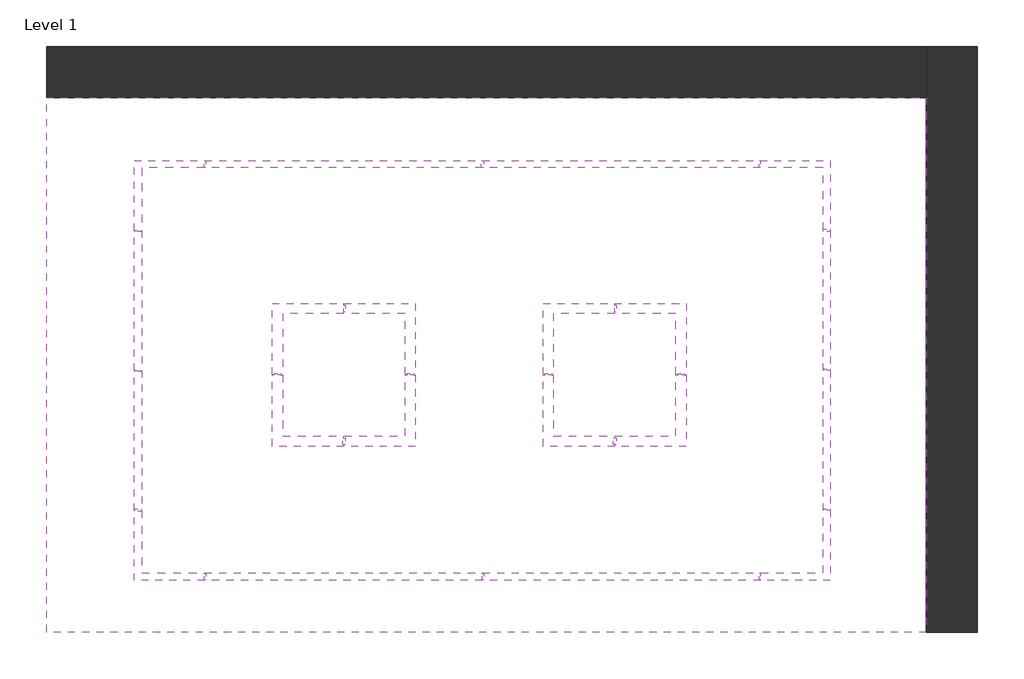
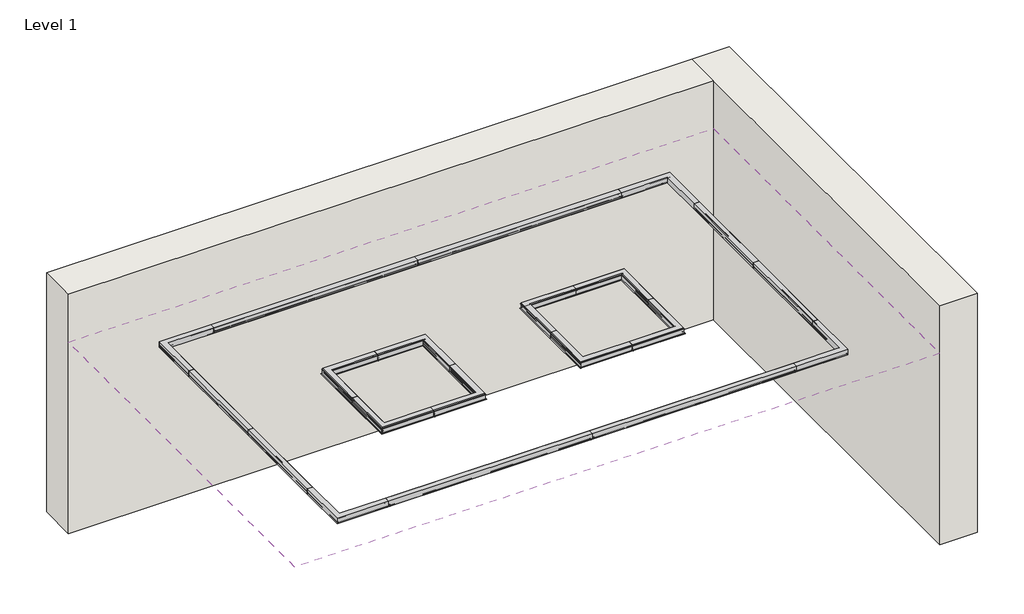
# One storey: 20 light fixtures, 2 walls, 1 covering.
"""IFC4 building model written with IfcOpenShell, lengths in millimetres."""

from ifc_helpers import new_model, si_unit, origin, origin_with_axes, place, context, project, spatial, polyline, outline, extrude, faceted_brep, transform, mapped, element, save
from components import lighting_recessed_axis_extend_2_6ccd1246, lighting_recessed_axis_extend_2_076d793f, lighting_recessed_axis_extend_2_a5cec84b, lighting_recessed_axis_extend_2_f581278c, lighting_recessed_axis_extend_2_38db9704, lighting_recessed_axis_extend_2_corner_2x2_75cb55ce, lighting_recessed_axis_extend_2_corner_2x2_af192418, lighting_recessed_axis_extend_2_corner_2x2_d16d7cd6, lighting_recessed_axis_extend_2_corner_2x2_85d7920b

model = new_model("IFC4")

# Units and contexts
model_context = context("Model", 3, world=origin())
ifc_project = project(units=[si_unit("LENGTHUNIT", "METRE", prefix="MILLI")], contexts=[model_context])

# Site, building, storey
site = spatial("IfcSite", under=ifc_project)
building = spatial("IfcBuilding", under=site)
storey = spatial("IfcBuildingStorey", under=building, Name="Level 1", Elevation=0.0)

# Covering
placement = place(None, origin())
element("IfcCovering", 1, ObjectType="2' x 4' ACT System", at=placement, inside=storey, context=model_context, shape_type="Brep", body=[
    faceted_brep([(-4065.1843493, 6283.1270347, 2495.55), (-4065.1843493, 1558.7270347, 2495.55), (3707.2156507, 1558.7270347, 2495.55), (3707.2156507, 6283.1270347, 2495.55), (-3289.3641043, 2017.3492806, 2495.55), (-3289.3641043, 5729.8894806, 2495.55), (2861.5760957, 5729.8894806, 2495.55), (2861.5760957, 2017.3492806, 2495.55), (-4065.1843493, 1558.7270347, 2438.4), (-4065.1843493, 6283.1270347, 2438.4), (3707.2156507, 6283.1270347, 2438.4), (3707.2156507, 1558.7270347, 2438.4), (2861.5760957, 5729.8894806, 2438.4), (-3289.3641043, 5729.8894806, 2438.4), (-3289.3641043, 2017.3492806, 2438.4), (2861.5760957, 2017.3492806, 2438.4)], [[[0, 1, 2, 3], [4, 5, 6, 7]], [[8, 9, 10, 11], [12, 13, 14, 15]], [[1, 0, 9, 8]], [[2, 1, 8, 11]], [[3, 2, 11, 10]], [[0, 3, 10, 9]], [[4, 14, 13, 5]], [[14, 4, 7, 15]], [[15, 7, 6, 12]], [[12, 6, 5, 13]]]),
    faceted_brep([(2797.5680957, 5665.8814806, 2495.55), (-3225.3561043, 5665.8814806, 2495.55), (-3225.3561043, 2081.3572806, 2495.55), (2797.5680957, 2081.3572806, 2495.55), (-2056.5751043, 3215.0356347, 2495.55), (-2056.5751043, 4452.5490347, 2495.55), (-819.0617043, 4452.5308051, 2495.55), (-819.0617043, 3215.0356347, 2495.55), (1573.8468957, 4452.5308051, 2495.55), (1573.8468957, 3215.0356347, 2495.55), (336.3334957, 3215.0356347, 2495.55), (336.3334957, 4452.5490347, 2495.55), (-3225.3561043, 2081.3572806, 2438.4), (-3225.3561043, 5665.8814806, 2438.4), (2797.5680957, 5665.8814806, 2438.4), (2797.5680957, 2081.3572806, 2438.4), (-2056.5751043, 4452.5490347, 2438.4), (-2056.5751043, 3215.0356347, 2438.4), (-819.0617043, 3215.0356347, 2438.4), (-819.0617043, 4452.5308051, 2438.4), (1573.8468957, 3215.0356347, 2438.4), (1573.8468957, 4452.5308051, 2438.4), (336.3334957, 4452.5490347, 2438.4), (336.3334957, 3215.0356347, 2438.4)], [[[0, 1, 2, 3], [4, 5, 6, 7], [8, 9, 10, 11]], [[12, 13, 14, 15], [16, 17, 18, 19], [20, 21, 22, 23]], [[18, 7, 6, 19]], [[12, 2, 1, 13]], [[2, 12, 15, 3]], [[7, 18, 17, 4]], [[19, 6, 5, 16]], [[4, 17, 16, 5]], [[3, 15, 14, 0]], [[0, 14, 13, 1]], [[9, 20, 23, 10]], [[20, 9, 8, 21]], [[21, 8, 11, 22]], [[10, 23, 22, 11]]]),
    faceted_brep([(-1992.5671043, 4388.5410347, 2495.55), (-1992.5671043, 3279.0436347, 2495.55), (-883.0697043, 3279.0436347, 2495.55), (-883.0697043, 4388.5228051, 2495.55), (-1992.5671043, 3279.0436347, 2438.4), (-1992.5671043, 4388.5410347, 2438.4), (-883.0697043, 4388.5228051, 2438.4), (-883.0697043, 3279.0436347, 2438.4)], [[[0, 1, 2, 3]], [[4, 5, 6, 7]], [[2, 7, 6, 3]], [[7, 2, 1, 4]], [[3, 6, 5, 0]], [[4, 1, 0, 5]]]),
    faceted_brep([(1509.8388957, 3279.0436347, 2495.55), (1509.8388957, 4388.5228051, 2495.55), (400.3414957, 4388.5410347, 2495.55), (400.3414957, 3279.0436347, 2495.55), (1509.8388957, 4388.5228051, 2438.4), (1509.8388957, 3279.0436347, 2438.4), (400.3414957, 3279.0436347, 2438.4), (400.3414957, 4388.5410347, 2438.4)], [[[0, 1, 2, 3]], [[4, 5, 6, 7]], [[5, 0, 3, 6]], [[0, 5, 4, 1]], [[1, 4, 7, 2]], [[6, 3, 2, 7]]]),
])

# Light fixtures
lighting_recessed_axis_extend_2_shape = lighting_recessed_axis_extend_2_6ccd1246(model_context)
element("IfcLightFixture", 2, ObjectType="Lighting-Recessed-Axis-Extend_2 : EX2R-900-80-35-SO-4", at=placement, inside=storey, context=model_context, shape_type="MappedRepresentation", body=[
    mapped(lighting_recessed_axis_extend_2_shape, transform((-3257.3601043, 4492.3760806, 2438.4), x_axis=(0.0, -1.0, 0.0), y_axis=(-1.0, 0.0, 0.0), z_axis=(0.0, 0.0, -1.0))),
])
element("IfcLightFixture", 3, ObjectType="Lighting-Recessed-Axis-Extend_2 : EX2R-900-80-35-SO-4", at=placement, inside=storey, context=model_context, shape_type="MappedRepresentation", body=[
    mapped(lighting_recessed_axis_extend_2_shape, transform((-3257.3601043, 3254.8626806, 2438.4), x_axis=(0.0, -1.0, 0.0), y_axis=(-1.0, 0.0, 0.0), z_axis=(0.0, 0.0, -1.0))),
])
lighting_recessed_axis_extend_2_2_shape = lighting_recessed_axis_extend_2_076d793f(model_context)
element("IfcLightFixture", 4, ObjectType="Lighting-Recessed-Axis-Extend_2 : EX2R-900-80-35-SO-4", at=placement, inside=storey, context=model_context, shape_type="MappedRepresentation", body=[
    mapped(lighting_recessed_axis_extend_2_2_shape, transform((1014.4626957, 5697.8854806, 2438.4), x_axis=(1.0, 0.0, 0.0), y_axis=(0.0, -1.0, 0.0), z_axis=(0.0, 0.0, -1.0))),
])
lighting_recessed_axis_extend_2_3_shape = lighting_recessed_axis_extend_2_a5cec84b(model_context)
element("IfcLightFixture", 5, ObjectType="Lighting-Recessed-Axis-Extend_2 : EX2R-900-80-35-SO-4", at=placement, inside=storey, context=model_context, shape_type="MappedRepresentation", body=[
    mapped(lighting_recessed_axis_extend_2_3_shape, transform((2829.5720957, 4492.3760806, 2438.4), x_axis=(0.0, -1.0, 0.0), y_axis=(-1.0, 0.0, 0.0), z_axis=(0.0, 0.0, -1.0))),
])
element("IfcLightFixture", 6, ObjectType="Lighting-Recessed-Axis-Extend_2 : EX2R-900-80-35-SO-4", at=placement, inside=storey, context=model_context, shape_type="MappedRepresentation", body=[
    mapped(lighting_recessed_axis_extend_2_3_shape, transform((2829.5720957, 3254.8626806, 2438.4), x_axis=(0.0, -1.0, 0.0), y_axis=(-1.0, 0.0, 0.0), z_axis=(0.0, 0.0, -1.0))),
])
lighting_recessed_axis_extend_2_4_shape = lighting_recessed_axis_extend_2_f581278c(model_context)
element("IfcLightFixture", 7, ObjectType="Lighting-Recessed-Axis-Extend_2 : EX2R-900-80-35-SO-4", at=placement, inside=storey, context=model_context, shape_type="MappedRepresentation", body=[
    mapped(lighting_recessed_axis_extend_2_4_shape, transform((-1442.2507043, 2049.3532806, 2438.4), x_axis=(1.0, 0.0, 0.0), y_axis=(0.0, -1.0, 0.0), z_axis=(0.0, 0.0, -1.0))),
])
element("IfcLightFixture", 8, ObjectType="Lighting-Recessed-Axis-Extend_2 : EX2R-900-80-35-SO-4", at=placement, inside=storey, context=model_context, shape_type="MappedRepresentation", body=[
    mapped(lighting_recessed_axis_extend_2_4_shape, transform((-1442.2507043, 5697.8854806, 2438.4), x_axis=(1.0, 0.0, 0.0), y_axis=(0.0, -1.0, 0.0), z_axis=(0.0, 0.0, -1.0))),
])
lighting_recessed_axis_extend_2_5_shape = lighting_recessed_axis_extend_2_38db9704(model_context)
element("IfcLightFixture", 9, ObjectType="Lighting-Recessed-Axis-Extend_2 : EX2R-900-80-35-SO-4", at=placement, inside=storey, context=model_context, shape_type="MappedRepresentation", body=[
    mapped(lighting_recessed_axis_extend_2_5_shape, transform((1014.4626957, 2049.3532806, 2438.4), x_axis=(1.0, 0.0, 0.0), y_axis=(0.0, -1.0, 0.0), z_axis=(0.0, 0.0, -1.0))),
])
lighting_recessed_axis_extend_2_corner_2x2_shape = lighting_recessed_axis_extend_2_corner_2x2_75cb55ce(model_context)
element("IfcLightFixture", 10, ObjectType="Lighting-Recessed-Axis-Extend_2_Corner : 2x2", at=placement, inside=storey, context=model_context, shape_type="MappedRepresentation", body=[
    mapped(lighting_recessed_axis_extend_2_corner_2x2_shape, transform((-1123.8617043, 3247.0396347, 2438.4), x_axis=(1.0, 0.0, 0.0), y_axis=(0.0, -1.0, 0.0), z_axis=(0.0, 0.0, -1.0))),
])
element("IfcLightFixture", 11, ObjectType="Lighting-Recessed-Axis-Extend_2_Corner : 2x2", at=placement, inside=storey, context=model_context, shape_type="MappedRepresentation", body=[
    mapped(lighting_recessed_axis_extend_2_corner_2x2_shape, transform((-2024.5711043, 3519.8356347, 2438.4), x_axis=(0.0, -1.0, 0.0), y_axis=(-1.0, 0.0, 0.0), z_axis=(0.0, 0.0, -1.0))),
])
element("IfcLightFixture", 12, ObjectType="Lighting-Recessed-Axis-Extend_2_Corner : 2x2", at=placement, inside=storey, context=model_context, shape_type="MappedRepresentation", body=[
    mapped(lighting_recessed_axis_extend_2_corner_2x2_shape, transform((1269.0468957, 3247.0396347, 2438.4), x_axis=(1.0, 0.0, 0.0), y_axis=(0.0, -1.0, 0.0), z_axis=(0.0, 0.0, -1.0))),
])
element("IfcLightFixture", 13, ObjectType="Lighting-Recessed-Axis-Extend_2_Corner : 2x2", at=placement, inside=storey, context=model_context, shape_type="MappedRepresentation", body=[
    mapped(lighting_recessed_axis_extend_2_corner_2x2_shape, transform((368.3374957, 3519.8356347, 2438.4), x_axis=(0.0, -1.0, 0.0), y_axis=(-1.0, 0.0, 0.0), z_axis=(0.0, 0.0, -1.0))),
])
lighting_recessed_axis_extend_2_corner_2x2_2_shape = lighting_recessed_axis_extend_2_corner_2x2_af192418(model_context)
element("IfcLightFixture", 14, ObjectType="Lighting-Recessed-Axis-Extend_2_Corner : 2x2", at=placement, inside=storey, context=model_context, shape_type="MappedRepresentation", body=[
    mapped(lighting_recessed_axis_extend_2_corner_2x2_2_shape, transform((-851.0657043, 4147.7308051, 2438.4), x_axis=(0.0, 1.0, 0.0), y_axis=(1.0, 0.0, 0.0), z_axis=(0.0, 0.0, -1.0))),
])
element("IfcLightFixture", 15, ObjectType="Lighting-Recessed-Axis-Extend_2_Corner : 2x2", at=placement, inside=storey, context=model_context, shape_type="MappedRepresentation", body=[
    mapped(lighting_recessed_axis_extend_2_corner_2x2_2_shape, transform((1541.8428957, 4147.7308051, 2438.4), x_axis=(0.0, 1.0, 0.0), y_axis=(1.0, 0.0, 0.0), z_axis=(0.0, 0.0, -1.0))),
])
lighting_recessed_axis_extend_2_corner_2x2_3_shape = lighting_recessed_axis_extend_2_corner_2x2_d16d7cd6(model_context)
element("IfcLightFixture", 16, ObjectType="Lighting-Recessed-Axis-Extend_2_Corner : 2x2", at=placement, inside=storey, context=model_context, shape_type="MappedRepresentation", body=[
    mapped(lighting_recessed_axis_extend_2_corner_2x2_3_shape, transform((-3257.3601043, 2322.1492806, 2438.4), x_axis=(0.0, -1.0, 0.0), y_axis=(-1.0, 0.0, 0.0), z_axis=(0.0, 0.0, -1.0))),
])
element("IfcLightFixture", 17, ObjectType="Lighting-Recessed-Axis-Extend_2_Corner : 2x2", at=placement, inside=storey, context=model_context, shape_type="MappedRepresentation", body=[
    mapped(lighting_recessed_axis_extend_2_corner_2x2_3_shape, transform((2556.7760957, 2049.3532806, 2438.4), x_axis=(1.0, 0.0, 0.0), y_axis=(0.0, -1.0, 0.0), z_axis=(0.0, 0.0, -1.0))),
])
element("IfcLightFixture", 18, ObjectType="Lighting-Recessed-Axis-Extend_2_Corner : 2x2", at=placement, inside=storey, context=model_context, shape_type="MappedRepresentation", body=[
    mapped(lighting_recessed_axis_extend_2_corner_2x2_3_shape, transform((2829.5720957, 5425.0894806, 2438.4), x_axis=(0.0, 1.0, 0.0), y_axis=(1.0, 0.0, 0.0), z_axis=(0.0, 0.0, -1.0))),
])
element("IfcLightFixture", 19, ObjectType="Lighting-Recessed-Axis-Extend_2_Corner : 2x2", at=placement, inside=storey, context=model_context, shape_type="MappedRepresentation", body=[
    mapped(lighting_recessed_axis_extend_2_corner_2x2_3_shape, transform((-2984.5641043, 5697.8854806, 2438.4), x_axis=(-1.0, 0.0, 0.0), y_axis=(0.0, 1.0, 0.0), z_axis=(0.0, 0.0, -1.0))),
])
lighting_recessed_axis_extend_2_corner_2x2_4_shape = lighting_recessed_axis_extend_2_corner_2x2_85d7920b(model_context)
element("IfcLightFixture", 20, ObjectType="Lighting-Recessed-Axis-Extend_2_Corner : 2x2", at=placement, inside=storey, context=model_context, shape_type="MappedRepresentation", body=[
    mapped(lighting_recessed_axis_extend_2_corner_2x2_4_shape, transform((-1751.7751043, 4420.5450347, 2438.4), x_axis=(-1.0, 0.0, 0.0), y_axis=(0.0, 1.0, 0.0), z_axis=(0.0, 0.0, -1.0))),
])
element("IfcLightFixture", 21, ObjectType="Lighting-Recessed-Axis-Extend_2_Corner : 2x2", at=placement, inside=storey, context=model_context, shape_type="MappedRepresentation", body=[
    mapped(lighting_recessed_axis_extend_2_corner_2x2_4_shape, transform((641.1334957, 4420.5450347, 2438.4), x_axis=(-1.0, 0.0, 0.0), y_axis=(0.0, 1.0, 0.0), z_axis=(0.0, 0.0, -1.0))),
])

# Walls
element("IfcWall", 22, ObjectType="Exterior - CMU on Mtl. Stud", at=placement, inside=storey, context=model_context, shape_type="Brep", body=[
    faceted_brep([(4160.9050226, 1558.7270347, 0.0), (4160.9050226, 6737.1520347, 0.0), (4160.9050226, 6737.1520347, 3048.0), (4160.9050226, 1558.7270347, 3048.0), (3706.8800226, 1558.7270347, 0.0), (3706.8800226, 1558.7270347, 3048.0), (3706.8800226, 6283.1270347, 3048.0), (3706.8800226, 6737.1520347, 3048.0), (3706.8800226, 6737.1520347, 0.0), (3706.8800226, 6283.1270347, 0.0)], [[[0, 1, 2, 3]], [[4, 5, 6, 7, 8, 9]], [[1, 0, 4, 9, 8]], [[3, 2, 7, 6, 5]], [[0, 3, 5, 4]], [[2, 1, 8, 7]]]),
])
element("IfcWall", 23, ObjectType="Exterior - CMU on Mtl. Stud", at=placement, inside=storey, context=model_context, shape_type="SweptSolid", body=[
    extrude(outline(polyline([(-4065.5199774, 6737.1520347), (3706.8800226, 6737.1520347), (3706.8800226, 6283.1270347), (-4065.5199774, 6283.1270347), (-4065.5199774, 6737.1520347)])), origin_with_axes(), (0.0, 0.0, 1.0), 3048.0),
])

save(model, "model.ifc")
